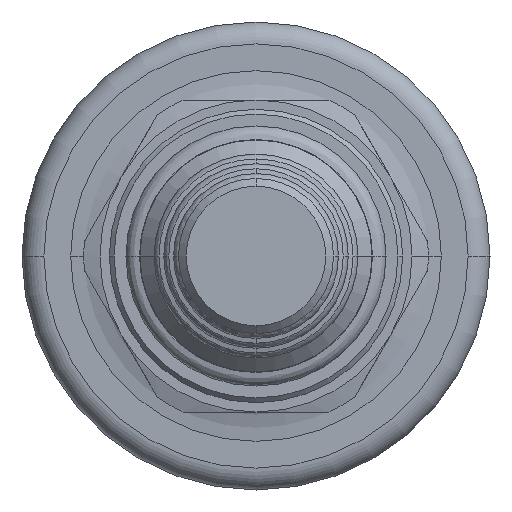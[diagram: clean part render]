
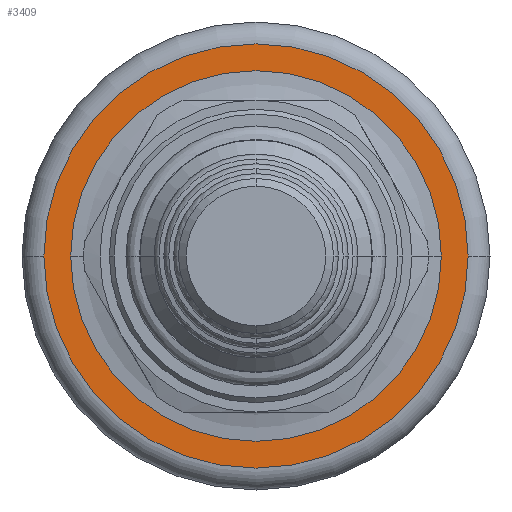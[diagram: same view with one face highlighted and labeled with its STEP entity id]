
A CAD part, front view. The second image highlights one B-rep face of the part: STEP entity #3409.
In plain terms, the highlighted planar face has unit normal (0, -1, 0).
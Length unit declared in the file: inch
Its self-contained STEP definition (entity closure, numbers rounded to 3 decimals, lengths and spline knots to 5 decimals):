
#942=CARTESIAN_POINT('',(0.,3.219,0.));
#943=DIRECTION('',(0.,1.,0.));
#944=DIRECTION('',(-1.,0.,0.));
#945=AXIS2_PLACEMENT_3D('',#942,#943,#944);
#957=CARTESIAN_POINT('',(0.,3.219,0.));
#958=DIRECTION('',(0.,-1.,0.));
#959=DIRECTION('',(-1.,0.,0.));
#960=AXIS2_PLACEMENT_3D('',#957,#958,#959);
#962=CARTESIAN_POINT('',(0.,3.219,0.));
#963=DIRECTION('',(0.,1.,0.));
#964=DIRECTION('',(-1.,0.,0.));
#965=AXIS2_PLACEMENT_3D('',#962,#963,#964);
#967=CARTESIAN_POINT('',(0.,3.219,0.));
#968=DIRECTION('',(0.,-1.,0.));
#969=DIRECTION('',(-1.,0.,0.));
#970=AXIS2_PLACEMENT_3D('',#967,#968,#969);
#2180=CARTESIAN_POINT('',(-0.68,3.219,0.));
#2182=VERTEX_POINT('',#2180);
#2183=CARTESIAN_POINT('',(-0.594,3.219,0.));
#2185=VERTEX_POINT('',#2183);
#2190=CARTESIAN_POINT('',(0.68,3.219,0.));
#2192=VERTEX_POINT('',#2190);
#2193=CARTESIAN_POINT('',(0.594,3.219,0.));
#2195=VERTEX_POINT('',#2193);
#3394=CARTESIAN_POINT('',(0.,3.219,0.));
#3395=DIRECTION('',(0.,1.,0.));
#3396=DIRECTION('',(1.,0.,0.));
#3397=AXIS2_PLACEMENT_3D('',#3394,#3395,#3396);
#3398=PLANE('',#3397);
#3400=ORIENTED_EDGE('',*,*,#3399,.T.);
#3402=ORIENTED_EDGE('',*,*,#3401,.F.);
#3403=EDGE_LOOP('',(#3400,#3402));
#3404=FACE_OUTER_BOUND('',#3403,.F.);
#3405=ORIENTED_EDGE('',*,*,#3389,.T.);
#3406=ORIENTED_EDGE('',*,*,#3373,.F.);
#3407=EDGE_LOOP('',(#3405,#3406));
#3408=FACE_BOUND('',#3407,.F.);
#3409=ADVANCED_FACE('',(#3404,#3408),#3398,.F.);
#946=CIRCLE('',#945,0.594);
#961=CIRCLE('',#960,0.594);
#966=CIRCLE('',#965,0.68);
#971=CIRCLE('',#970,0.68);
#3373=EDGE_CURVE('',#2185,#2195,#946,.T.);
#3389=EDGE_CURVE('',#2185,#2195,#961,.T.);
#3399=EDGE_CURVE('',#2182,#2192,#966,.T.);
#3401=EDGE_CURVE('',#2182,#2192,#971,.T.);
